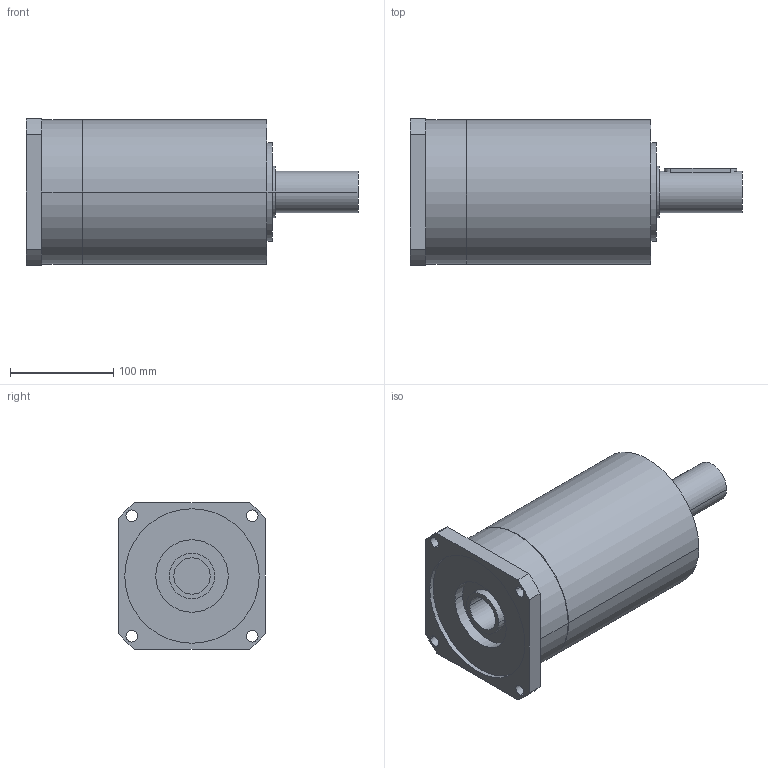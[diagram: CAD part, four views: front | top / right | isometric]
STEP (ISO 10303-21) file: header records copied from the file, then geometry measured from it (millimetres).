
FILE_DESCRIPTION(('CoCreate Modeling STEP Export'),'2;1');
FILE_NAME('GPR150_ig-9-12-16-20-28-35_40_B14_35_P05.stp','2014-08-19T17:04:15',(''),(''),'CoCreate Modeling STEP processor for AP214 (Solid Model)','CoCreate Modeling 16.00C 25-Feb-2009 (C) Parametric Technology GmbH','');
FILE_SCHEMA(('AUTOMOTIVE_DESIGN { 1 0 10303 214 1 1 1 1 }'));
Length unit declared in the file: millimetre
Products named in the file (2): GPR150_ig-9-12-16-20-28-35_40_B14_35_P05
Assembly tree (1 placements, depth 2):
  GPR150_ig-9-12-16-20-28-35_40_B14_35_P05
    GPR150_ig-9-12-16-20-28-35_40_B14_35_P05
Bounding box: 321 x 142 x 142 mm (x, y, z)
Volume: 3614209.7 mm3; surface area: 176266.2 mm2
Topology: 1 solids, 1 shells, 70 faces, 189 edges, 133 vertices
Faces by surface type: cylinder 42, plane 22, cone 6
Entity records: 1968 total; most frequent: CARTESIAN_POINT 385, ORIENTED_EDGE 374, DIRECTION 262, EDGE_CURVE 187, VERTEX_POINT 133, AXIS2_PLACEMENT_3D 98, EDGE_LOOP 92, FACE_OUTER_BOUND 70
